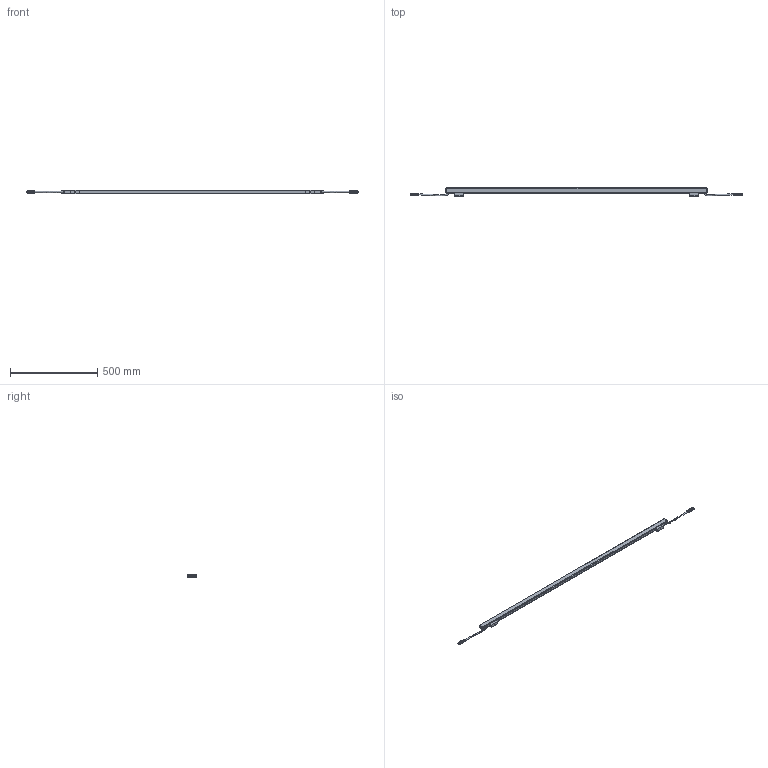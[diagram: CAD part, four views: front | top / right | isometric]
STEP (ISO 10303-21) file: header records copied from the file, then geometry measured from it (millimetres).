
FILE_DESCRIPTION (( 'STEP AP214' ), '1' );
FILE_NAME ('DiGi Linear V-Series L1500 Flat.STEP', '2025-07-22T11:41:20', ( '' ), ( '' ), 'SwSTEP 2.0', 'SolidWorks 2025', '' );
FILE_SCHEMA (( 'AUTOMOTIVE_DESIGN' ));
Length unit declared in the file: millimetre
Products named in the file (7): DiGi Linear V-serie - Cabling_L1500; M12 3p Female; DiGi Linear V-serie - Clip; Counter sunk screw torx_M2x6; DiGi Linear V-Series L1500 Flat; M12 3p Male; DiGi Linear V-serie - Body_L1500 Flat
Assembly tree (10 placements, depth 2):
  DiGi Linear V-Series L1500 Flat
    DiGi Linear V-serie - Body_L1500 Flat
    DiGi Linear V-serie - Clip  x2
    M12 3p Male
    M12 3p Female
    DiGi Linear V-serie - Cabling_L1500
    Counter sunk screw torx_M2x6  x4
Bounding box: 1907.4 x 46 x 18.3 mm (x, y, z)
Volume: 797458.2 mm3; surface area: 192308.5 mm2
Topology: 13 solids, 13 shells, 1281 faces, 3215 edges, 2004 vertices
Faces by surface type: plane 490, cylinder 354, bspline 184, torus 161, cone 80, sphere 12
Full cylindrical faces by diameter (mm): 2 x4, 2.4 x4, 3 x4, 6.5 x6, 9.7 x1, 10 x2, 10.8 x1, 12.3 x1, 14.3 x2
Entity records: 53818 total; most frequent: CARTESIAN_POINT 17185, ORIENTED_EDGE 5798, DIRECTION 4799, EDGE_CURVE 2899, VERTEX_POINT 1820, AXIS2_PLACEMENT_3D 1808, EDGE_LOOP 1277, FACE_OUTER_BOUND 1205
